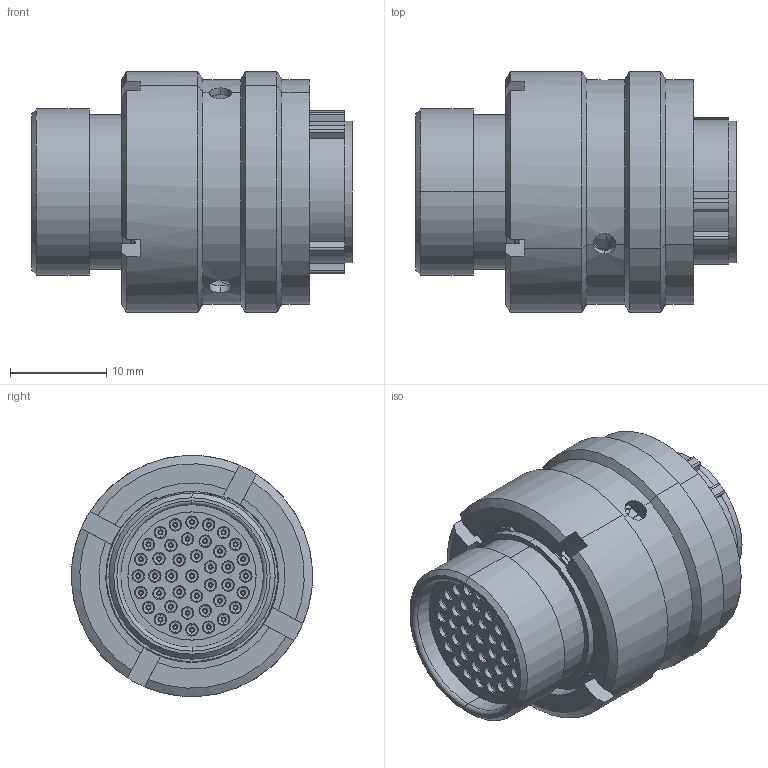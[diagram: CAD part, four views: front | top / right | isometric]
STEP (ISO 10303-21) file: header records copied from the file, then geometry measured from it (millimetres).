
FILE_DESCRIPTION (( 'STEP AP214' ), '1' );
FILE_NAME ('ASDD612-41SB.STEP', '2013-06-13T13:01:09', ( 'TE Connectivity' ), ( 'TE Connectivity' ), 'SwSTEP 2.0', 'SolidWorks 2011', '' );
FILE_SCHEMA (( 'AUTOMOTIVE_DESIGN' ));
Length unit declared in the file: inch
Products named in the file (1): ASDD612-41SB
Bounding box: 33.37 x 25.08 x 25.08 mm (x, y, z)
Volume: 8267.9 mm3; surface area: 13285.2 mm2
Topology: 11 solids, 11 shells, 1616 faces, 3874 edges, 2334 vertices
Faces by surface type: cylinder 526, torus 420, plane 397, cone 258, bspline 15
Entity records: 73559 total; most frequent: CARTESIAN_POINT 15201, DIRECTION 8040, ORIENTED_EDGE 7748, EDGE_CURVE 3874, AXIS2_PLACEMENT_3D 3490, VERTEX_POINT 2334, CIRCLE 1888, EDGE_LOOP 1848
